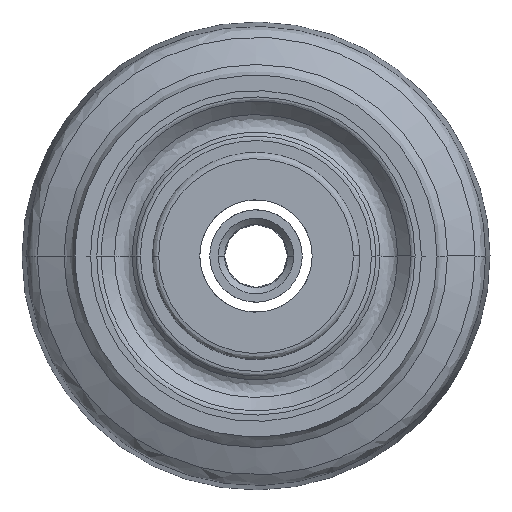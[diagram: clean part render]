
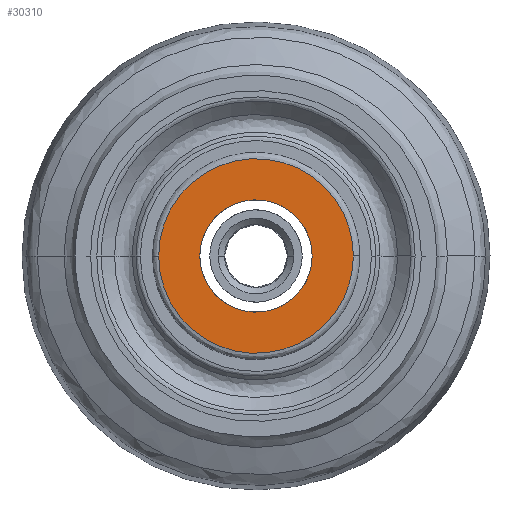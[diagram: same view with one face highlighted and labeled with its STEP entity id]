
A CAD part, left-side view. The second image highlights one B-rep face of the part: STEP entity #30310.
In plain terms, the highlighted planar face has unit normal (-1, 0, 0).
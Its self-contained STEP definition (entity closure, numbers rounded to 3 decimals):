
#5688 = CARTESIAN_POINT ( 'NONE',  ( -15.5, -9., 0. ) ) ;
#5731 = CARTESIAN_POINT ( 'NONE',  ( -15.5, -9., -1.58 ) ) ;
#5732 = CARTESIAN_POINT ( 'NONE',  ( -15.5, -8.584, -3.132 ) ) ;
#5733 = CARTESIAN_POINT ( 'NONE',  ( -15.5, -7.794, -4.5 ) ) ;
#5734 = CARTESIAN_POINT ( 'NONE',  ( -15.5, -7.004, -5.868 ) ) ;
#5735 = CARTESIAN_POINT ( 'NONE',  ( -15.5, -5.868, -7.004 ) ) ;
#5736 = CARTESIAN_POINT ( 'NONE',  ( -15.5, -4.5, -7.794 ) ) ;
#5737 = CARTESIAN_POINT ( 'NONE',  ( -15.5, -3.132, -8.584 ) ) ;
#5738 = CARTESIAN_POINT ( 'NONE',  ( -15.5, -1.58, -9. ) ) ;
#5739 = CARTESIAN_POINT ( 'NONE',  ( -15.5, 0., -9. ) ) ;
#5740 = CARTESIAN_POINT ( 'NONE',  ( -15.5, 1.58, -9. ) ) ;
#5741 = CARTESIAN_POINT ( 'NONE',  ( -15.5, 3.132, -8.584 ) ) ;
#5742 = CARTESIAN_POINT ( 'NONE',  ( -15.5, 4.5, -7.794 ) ) ;
#5743 = CARTESIAN_POINT ( 'NONE',  ( -15.5, 5.868, -7.004 ) ) ;
#5744 = CARTESIAN_POINT ( 'NONE',  ( -15.5, 7.004, -5.868 ) ) ;
#5745 = CARTESIAN_POINT ( 'NONE',  ( -15.5, 7.794, -4.5 ) ) ;
#5746 = CARTESIAN_POINT ( 'NONE',  ( -15.5, 8.584, -3.132 ) ) ;
#5747 = CARTESIAN_POINT ( 'NONE',  ( -15.5, 9., -1.58 ) ) ;
#5748 = CARTESIAN_POINT ( 'NONE',  ( -15.5, 9., 0. ) ) ;
#9750 = B_SPLINE_CURVE_WITH_KNOTS ( 'NONE', 3,
 ( #9810, #9821, #9822, #9823, #9824, #9825, #9826, #9827, #9828, #9829, #9830, #9831, #9832, #9833, #9834, #9835, #9836, #9837, #9838 ),
 .UNSPECIFIED., .F., .F.,
 ( 4, 3, 3, 3, 3, 3, 4 ),
 ( 0., 0.167, 0.333, 0.5, 0.667, 0.833, 1. ),
 .UNSPECIFIED. ) ;
#9768 = B_SPLINE_CURVE_WITH_KNOTS ( 'NONE', 3,
 ( #14813, #14824, #14825, #14826, #14827, #14828, #14829, #14830, #14831, #14832, #14833, #14834, #14835, #14836, #14837, #14838, #14839, #14840, #14841 ),
 .UNSPECIFIED., .F., .F.,
 ( 4, 3, 3, 3, 3, 3, 4 ),
 ( 0., 0.167, 0.333, 0.5, 0.667, 0.833, 1. ),
 .UNSPECIFIED. ) ;
#9810 = CARTESIAN_POINT ( 'NONE',  ( -15.5, -9., 0. ) ) ;
#9821 = CARTESIAN_POINT ( 'NONE',  ( -15.5, -9., 1.58 ) ) ;
#9822 = CARTESIAN_POINT ( 'NONE',  ( -15.5, -8.584, 3.132 ) ) ;
#9823 = CARTESIAN_POINT ( 'NONE',  ( -15.5, -7.794, 4.5 ) ) ;
#9824 = CARTESIAN_POINT ( 'NONE',  ( -15.5, -7.004, 5.868 ) ) ;
#9825 = CARTESIAN_POINT ( 'NONE',  ( -15.5, -5.868, 7.004 ) ) ;
#9826 = CARTESIAN_POINT ( 'NONE',  ( -15.5, -4.5, 7.794 ) ) ;
#9827 = CARTESIAN_POINT ( 'NONE',  ( -15.5, -3.132, 8.584 ) ) ;
#9828 = CARTESIAN_POINT ( 'NONE',  ( -15.5, -1.58, 9. ) ) ;
#9829 = CARTESIAN_POINT ( 'NONE',  ( -15.5, 0., 9. ) ) ;
#9830 = CARTESIAN_POINT ( 'NONE',  ( -15.5, 1.58, 9. ) ) ;
#9831 = CARTESIAN_POINT ( 'NONE',  ( -15.5, 3.132, 8.584 ) ) ;
#9832 = CARTESIAN_POINT ( 'NONE',  ( -15.5, 4.5, 7.794 ) ) ;
#9833 = CARTESIAN_POINT ( 'NONE',  ( -15.5, 5.868, 7.004 ) ) ;
#9834 = CARTESIAN_POINT ( 'NONE',  ( -15.5, 7.004, 5.868 ) ) ;
#9835 = CARTESIAN_POINT ( 'NONE',  ( -15.5, 7.794, 4.5 ) ) ;
#9836 = CARTESIAN_POINT ( 'NONE',  ( -15.5, 8.584, 3.132 ) ) ;
#9837 = CARTESIAN_POINT ( 'NONE',  ( -15.5, 9., 1.58 ) ) ;
#9838 = CARTESIAN_POINT ( 'NONE',  ( -15.5, 9., 0. ) ) ;
#14813 = CARTESIAN_POINT ( 'NONE',  ( -15.5, 15.6, 0. ) ) ;
#14824 = CARTESIAN_POINT ( 'NONE',  ( -15.5, 15.6, 2.738 ) ) ;
#14825 = CARTESIAN_POINT ( 'NONE',  ( -15.5, 14.879, 5.429 ) ) ;
#14826 = CARTESIAN_POINT ( 'NONE',  ( -15.5, 13.51, 7.8 ) ) ;
#14827 = CARTESIAN_POINT ( 'NONE',  ( -15.5, 12.141, 10.171 ) ) ;
#14828 = CARTESIAN_POINT ( 'NONE',  ( -15.5, 10.171, 12.141 ) ) ;
#14829 = CARTESIAN_POINT ( 'NONE',  ( -15.5, 7.8, 13.51 ) ) ;
#14830 = CARTESIAN_POINT ( 'NONE',  ( -15.5, 5.429, 14.879 ) ) ;
#14831 = CARTESIAN_POINT ( 'NONE',  ( -15.5, 2.738, 15.6 ) ) ;
#14832 = CARTESIAN_POINT ( 'NONE',  ( -15.5, 0., 15.6 ) ) ;
#14833 = CARTESIAN_POINT ( 'NONE',  ( -15.5, -2.738, 15.6 ) ) ;
#14834 = CARTESIAN_POINT ( 'NONE',  ( -15.5, -5.429, 14.879 ) ) ;
#14835 = CARTESIAN_POINT ( 'NONE',  ( -15.5, -7.8, 13.51 ) ) ;
#14836 = CARTESIAN_POINT ( 'NONE',  ( -15.5, -10.171, 12.141 ) ) ;
#14837 = CARTESIAN_POINT ( 'NONE',  ( -15.5, -12.141, 10.171 ) ) ;
#14838 = CARTESIAN_POINT ( 'NONE',  ( -15.5, -13.51, 7.8 ) ) ;
#14839 = CARTESIAN_POINT ( 'NONE',  ( -15.5, -14.879, 5.429 ) ) ;
#14840 = CARTESIAN_POINT ( 'NONE',  ( -15.5, -15.6, 2.738 ) ) ;
#14841 = CARTESIAN_POINT ( 'NONE',  ( -15.5, -15.6, 0. ) ) ;
#16502 = CARTESIAN_POINT ( 'NONE',  ( -15.5, 15.6, 0. ) ) ;
#16503 = PLANE ( 'NONE',  #32854 ) ;
#16504 = DIRECTION ( 'NONE',  ( -1., 0., 0. ) ) ;
#16505 = DIRECTION ( 'NONE',  ( 0., -1., 0. ) ) ;
#23390 = VERTEX_POINT ( 'NONE', #24166 ) ;
#23468 = VERTEX_POINT ( 'NONE', #24244 ) ;
#23534 = VERTEX_POINT ( 'NONE', #24309 ) ;
#23578 = VERTEX_POINT ( 'NONE', #24353 ) ;
#24166 = CARTESIAN_POINT ( 'NONE',  ( -15.5, 9., 0. ) ) ;
#24244 = CARTESIAN_POINT ( 'NONE',  ( -15.5, -9., 0. ) ) ;
#24309 = CARTESIAN_POINT ( 'NONE',  ( -15.5, 15.6, 0. ) ) ;
#24353 = CARTESIAN_POINT ( 'NONE',  ( -15.5, -15.6, 0. ) ) ;
#28139 = ORIENTED_EDGE ( 'NONE', *, *, #32840, .F. ) ;
#28322 = ORIENTED_EDGE ( 'NONE', *, *, #32662, .T. ) ;
#28323 = ORIENTED_EDGE ( 'NONE', *, *, #30111, .T. ) ;
#28324 = ORIENTED_EDGE ( 'NONE', *, *, #33688, .F. ) ;
#28409 = EDGE_LOOP ( 'NONE', ( #28324, #28323 ) ) ;
#28425 = EDGE_LOOP ( 'NONE', ( #28322, #28139 ) ) ;
#30111 = EDGE_CURVE ( 'NONE', #23534, #23578, #32276, .T. ) ;
#30310 = ADVANCED_FACE ( 'NONE', ( #33433, #33435 ), #16503, .T. ) ;
#32168 = B_SPLINE_CURVE_WITH_KNOTS ( 'NONE', 3,
 ( #5688, #5731, #5732, #5733, #5734, #5735, #5736, #5737, #5738, #5739, #5740, #5741, #5742, #5743, #5744, #5745, #5746, #5747, #5748 ),
 .UNSPECIFIED., .F., .F.,
 ( 4, 3, 3, 3, 3, 3, 4 ),
 ( 0., 0.167, 0.333, 0.5, 0.667, 0.833, 1. ),
 .UNSPECIFIED. ) ;
#32276 = B_SPLINE_CURVE_WITH_KNOTS ( 'NONE', 3,
 ( #33826, #33906, #33907, #33908, #33909, #33910, #33911, #33912, #33913, #33914, #33915, #33916, #33917, #33918, #33919, #33920, #33921, #33922, #33923 ),
 .UNSPECIFIED., .F., .F.,
 ( 4, 3, 3, 3, 3, 3, 4 ),
 ( 0., 0.167, 0.333, 0.5, 0.667, 0.833, 1. ),
 .UNSPECIFIED. ) ;
#32662 = EDGE_CURVE ( 'NONE', #23468, #23390, #32168, .T. ) ;
#32840 = EDGE_CURVE ( 'NONE', #23468, #23390, #9750, .T. ) ;
#32854 = AXIS2_PLACEMENT_3D ( 'NONE', #16502, #16504, #16505 ) ;
#33433 = FACE_OUTER_BOUND ( 'NONE', #28409, .T. ) ;
#33435 = FACE_BOUND ( 'NONE', #28425, .T. ) ;
#33688 = EDGE_CURVE ( 'NONE', #23534, #23578, #9768, .T. ) ;
#33826 = CARTESIAN_POINT ( 'NONE',  ( -15.5, 15.6, 0. ) ) ;
#33906 = CARTESIAN_POINT ( 'NONE',  ( -15.5, 15.6, -2.738 ) ) ;
#33907 = CARTESIAN_POINT ( 'NONE',  ( -15.5, 14.879, -5.429 ) ) ;
#33908 = CARTESIAN_POINT ( 'NONE',  ( -15.5, 13.51, -7.8 ) ) ;
#33909 = CARTESIAN_POINT ( 'NONE',  ( -15.5, 12.141, -10.171 ) ) ;
#33910 = CARTESIAN_POINT ( 'NONE',  ( -15.5, 10.171, -12.141 ) ) ;
#33911 = CARTESIAN_POINT ( 'NONE',  ( -15.5, 7.8, -13.51 ) ) ;
#33912 = CARTESIAN_POINT ( 'NONE',  ( -15.5, 5.429, -14.879 ) ) ;
#33913 = CARTESIAN_POINT ( 'NONE',  ( -15.5, 2.738, -15.6 ) ) ;
#33914 = CARTESIAN_POINT ( 'NONE',  ( -15.5, 0., -15.6 ) ) ;
#33915 = CARTESIAN_POINT ( 'NONE',  ( -15.5, -2.738, -15.6 ) ) ;
#33916 = CARTESIAN_POINT ( 'NONE',  ( -15.5, -5.429, -14.879 ) ) ;
#33917 = CARTESIAN_POINT ( 'NONE',  ( -15.5, -7.8, -13.51 ) ) ;
#33918 = CARTESIAN_POINT ( 'NONE',  ( -15.5, -10.171, -12.141 ) ) ;
#33919 = CARTESIAN_POINT ( 'NONE',  ( -15.5, -12.141, -10.171 ) ) ;
#33920 = CARTESIAN_POINT ( 'NONE',  ( -15.5, -13.51, -7.8 ) ) ;
#33921 = CARTESIAN_POINT ( 'NONE',  ( -15.5, -14.879, -5.429 ) ) ;
#33922 = CARTESIAN_POINT ( 'NONE',  ( -15.5, -15.6, -2.738 ) ) ;
#33923 = CARTESIAN_POINT ( 'NONE',  ( -15.5, -15.6, 0. ) ) ;
